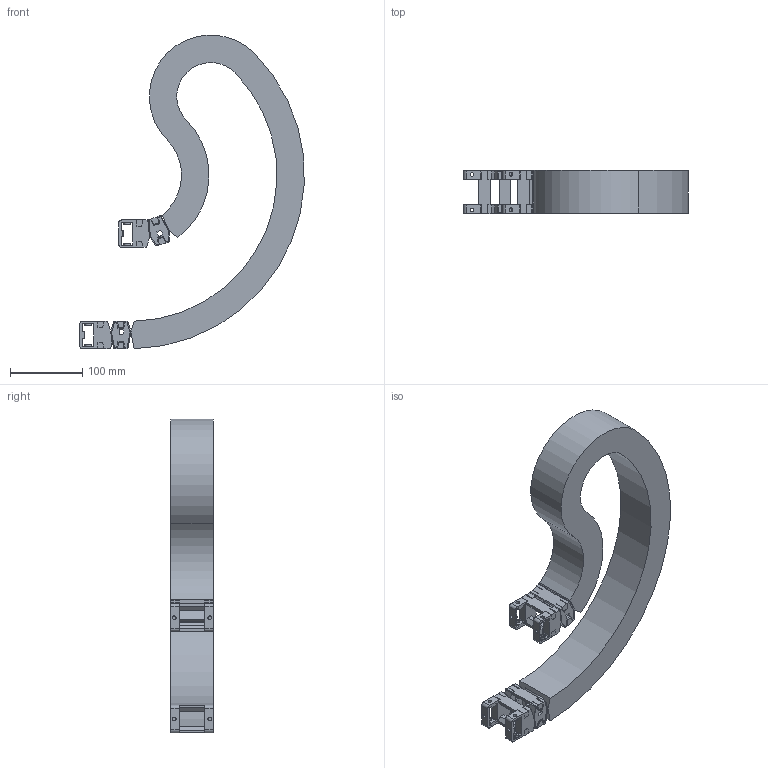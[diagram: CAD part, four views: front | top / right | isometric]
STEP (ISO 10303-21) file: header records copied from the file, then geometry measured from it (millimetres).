
FILE_DESCRIPTION( ( 'STEP AP214' ), '1' );
FILE_NAME( 'e:/temp/worker_65/temp/exporttempdir_7276_23_6l78M/format_0/RV028CRA59657050170200-00351280.02446.stp', '2021-07-26T13:30:37', ( 'License CC BY-ND 4.0' ), ( 'CADENAS' ), ' ', 'PARTsolutions', ' ' );
FILE_SCHEMA( ( 'AUTOMOTIVE_DESIGN { 1 0 10303 214 1 1 1 1 }' ) );
Length unit declared in the file: millimetre
Products named in the file (5): RV028CRA59657050170200-00351280.02446; _RV028CRA59657050170200-0035793.324-Chain; _RV028CR-SU-28-35; _RV028CR_FB-59; _RV028CR_MB-59
Assembly tree (5 placements, depth 2):
  RV028CRA59657050170200-00351280.02446
    _RV028CRA59657050170200-0035793.324-Chain
    _RV028CR-SU-28-35  x2
    _RV028CR_FB-59
    _RV028CR_MB-59
Bounding box: 310.39 x 59 x 433.46 mm (x, y, z)
Volume: 1229950.8 mm3; surface area: 331599.1 mm2
Topology: 5 solids, 5 shells, 612 faces, 1844 edges, 1204 vertices
Faces by surface type: plane 472, cylinder 140
Full cylindrical faces by diameter (mm): 5 x12
Entity records: 18814 total; most frequent: CARTESIAN_POINT 2676, ORIENTED_EDGE 2672, DIRECTION 2480, EDGE_CURVE 1336, LINE 1112, VECTOR 1112, VERTEX_POINT 880, AXIS2_PLACEMENT_3D 684
